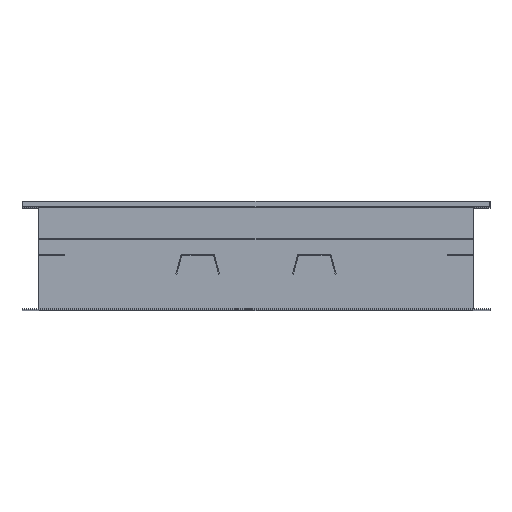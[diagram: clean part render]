
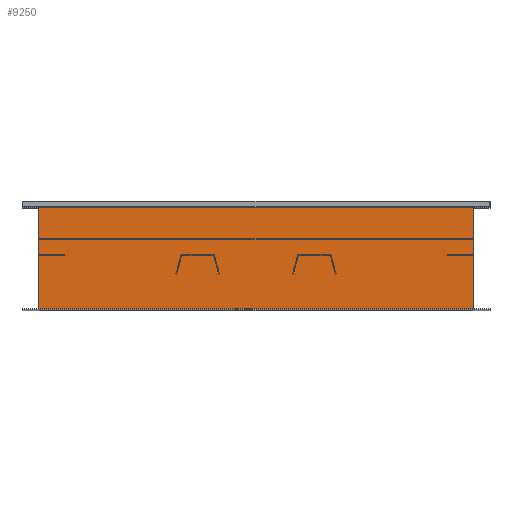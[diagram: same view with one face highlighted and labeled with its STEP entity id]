
A CAD part, top view. The second image highlights one B-rep face of the part: STEP entity #9250.
In plain terms, the highlighted planar face has unit normal (0, 0, 1).
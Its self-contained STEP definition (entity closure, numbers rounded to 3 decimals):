
#3287=DIRECTION('',(1.,0.,0.));
#3288=VECTOR('',#3287,1004.);
#3289=CARTESIAN_POINT('',(-502.,-248.,502.));
#3290=LINE('',#3289,#3288);
#3295=DIRECTION('',(0.,-1.,0.));
#3296=VECTOR('',#3295,234.);
#3297=CARTESIAN_POINT('',(-502.,-14.,502.));
#3298=LINE('',#3297,#3296);
#3299=DIRECTION('',(1.,0.,0.));
#3300=VECTOR('',#3299,1004.);
#3301=CARTESIAN_POINT('',(-502.,-14.,502.));
#3302=LINE('',#3301,#3300);
#3303=DIRECTION('',(0.,-1.,0.));
#3304=VECTOR('',#3303,234.);
#3305=CARTESIAN_POINT('',(502.,-14.,502.));
#3306=LINE('',#3305,#3304);
#3915=CARTESIAN_POINT('',(-502.,-14.,502.));
#3916=CARTESIAN_POINT('',(-502.,-248.,502.));
#3917=VERTEX_POINT('',#3915);
#3918=VERTEX_POINT('',#3916);
#3935=CARTESIAN_POINT('',(502.,-14.,502.));
#3936=CARTESIAN_POINT('',(502.,-248.,502.));
#3937=VERTEX_POINT('',#3935);
#3938=VERTEX_POINT('',#3936);
#9238=CARTESIAN_POINT('',(-500.,-14.,502.));
#9239=DIRECTION('',(0.,0.,1.));
#9240=DIRECTION('',(0.,-1.,0.));
#9241=AXIS2_PLACEMENT_3D('',#9238,#9239,#9240);
#9242=PLANE('',#9241);
#9243=ORIENTED_EDGE('',*,*,#5045,.F.);
#9244=ORIENTED_EDGE('',*,*,#5032,.T.);
#9246=ORIENTED_EDGE('',*,*,#9245,.T.);
#9247=ORIENTED_EDGE('',*,*,#9231,.F.);
#9248=EDGE_LOOP('',(#9243,#9244,#9246,#9247));
#9249=FACE_OUTER_BOUND('',#9248,.F.);
#5032=EDGE_CURVE('',#3917,#3937,#3302,.T.);
#5045=EDGE_CURVE('',#3917,#3918,#3298,.T.);
#9231=EDGE_CURVE('',#3918,#3938,#3290,.T.);
#9245=EDGE_CURVE('',#3937,#3938,#3306,.T.);
#9250=ADVANCED_FACE('',(#9249),#9242,.T.);
